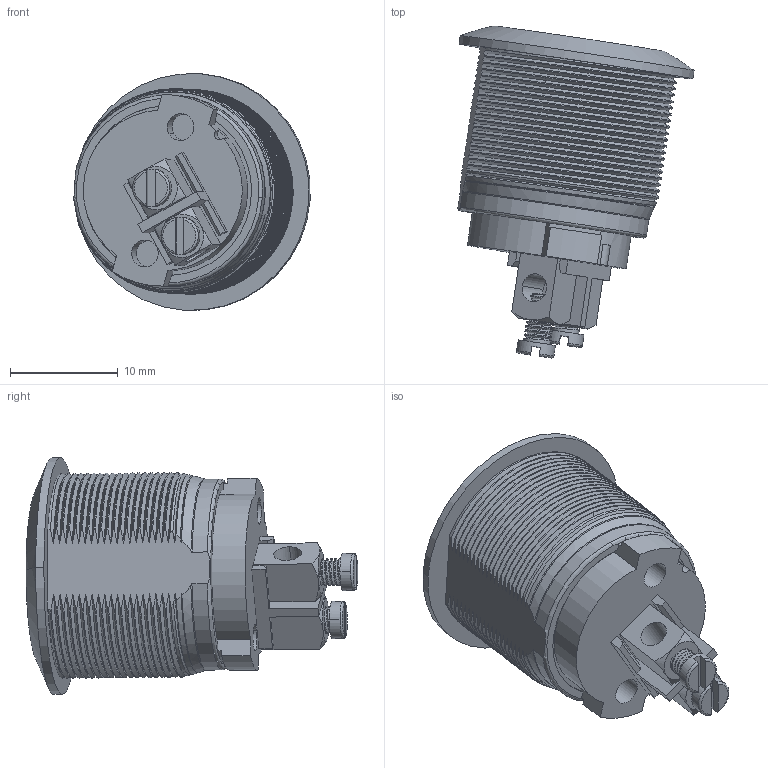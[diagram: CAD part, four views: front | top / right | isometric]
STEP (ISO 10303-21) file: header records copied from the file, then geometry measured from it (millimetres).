
FILE_DESCRIPTION((''),'2;1');
FILE_NAME('AV09C703D9','2013-06-19T',('jpetit'),(''),'PRO/ENGINEER BY PARAMETRIC TECHNOLOGY CORPORATION, 2012480','PRO/ENGINEER BY PARAMETRIC TECHNOLOGY CORPORATION, 2012480','');
FILE_SCHEMA(('CONFIG_CONTROL_DESIGN'));
Length unit declared in the file: millimetre
Products named in the file (1): AV09C703D9
Bounding box: 21.92 x 30.81 x 21.95 mm (x, y, z)
Volume: 5535.9 mm3; surface area: 3001.9 mm2
Topology: 1 solids, 1 shells, 279 faces, 839 edges, 548 vertices
Faces by surface type: bspline 92, cylinder 88, plane 69, cone 21, torus 7, sphere 2
Entity records: 32809 total; most frequent: CARTESIAN_POINT 26296, ORIENTED_EDGE 1678, DIRECTION 847, EDGE_CURVE 839, VERTEX_POINT 548, B_SPLINE_CURVE_WITH_KNOTS 474, EDGE_LOOP 303, AXIS2_PLACEMENT_3D 295
